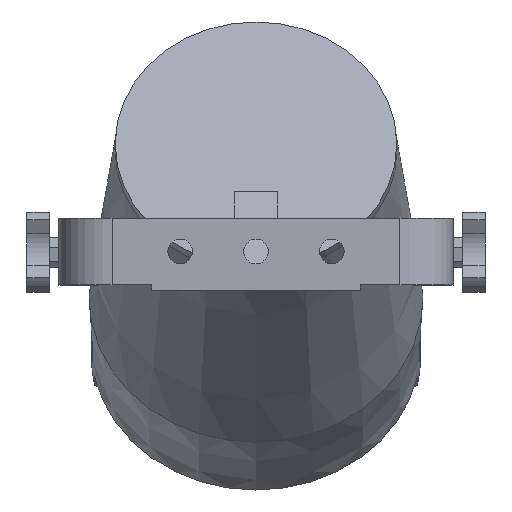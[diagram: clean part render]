
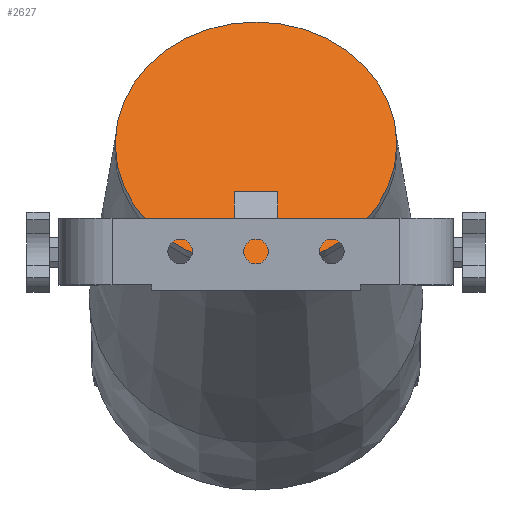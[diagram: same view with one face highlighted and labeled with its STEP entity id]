
A CAD part, top view. The second image highlights one B-rep face of the part: STEP entity #2627.
In plain terms, the highlighted planar face has unit normal (0, 0.497, 0.868) as drawn and (0, 0, 1) by its records, which use the part's own axes.
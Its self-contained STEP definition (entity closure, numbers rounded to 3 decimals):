
#79=FACE_BOUND('',#504,.T.);
#177=CIRCLE('',#2887,74.315);
#178=CIRCLE('',#2888,74.315);
#352=FACE_OUTER_BOUND('',#503,.T.);
#503=EDGE_LOOP('',(#2383,#2384));
#504=EDGE_LOOP('',(#2385,#2386,#2387,#2388));
#698=LINE('',#4169,#950);
#702=LINE('',#4177,#954);
#707=LINE('',#4187,#959);
#709=LINE('',#4190,#961);
#950=VECTOR('',#3430,10.);
#954=VECTOR('',#3436,10.);
#959=VECTOR('',#3445,10.);
#961=VECTOR('',#3449,10.);
#1191=VERTEX_POINT('',#4167);
#1192=VERTEX_POINT('',#4168);
#1195=VERTEX_POINT('',#4176);
#1198=VERTEX_POINT('',#4186);
#1264=VERTEX_POINT('',#4596);
#1265=VERTEX_POINT('',#4597);
#1533=EDGE_CURVE('',#1191,#1192,#698,.T.);
#1537=EDGE_CURVE('',#1195,#1191,#702,.T.);
#1542=EDGE_CURVE('',#1192,#1198,#707,.T.);
#1544=EDGE_CURVE('',#1198,#1195,#709,.T.);
#1641=EDGE_CURVE('',#1264,#1265,#177,.T.);
#1642=EDGE_CURVE('',#1265,#1264,#178,.T.);
#2383=ORIENTED_EDGE('',*,*,#1641,.T.);
#2384=ORIENTED_EDGE('',*,*,#1642,.T.);
#2385=ORIENTED_EDGE('',*,*,#1537,.T.);
#2386=ORIENTED_EDGE('',*,*,#1533,.T.);
#2387=ORIENTED_EDGE('',*,*,#1542,.T.);
#2388=ORIENTED_EDGE('',*,*,#1544,.T.);
#2493=PLANE('',#2886);
#2627=ADVANCED_FACE('',(#352,#79),#2493,.T.);
#2886=AXIS2_PLACEMENT_3D('',#4595,#3607,#3608);
#2887=AXIS2_PLACEMENT_3D('',#4598,#3609,#3610);
#2888=AXIS2_PLACEMENT_3D('',#4599,#3611,#3612);
#3430=DIRECTION('',(0.,1.,0.));
#3436=DIRECTION('',(-1.,0.,0.));
#3445=DIRECTION('',(1.,0.,0.));
#3449=DIRECTION('',(0.,-1.,0.));
#3607=DIRECTION('center_axis',(0.,0.,1.));
#3608=DIRECTION('ref_axis',(1.,0.,0.));
#3609=DIRECTION('center_axis',(0.,0.,1.));
#3610=DIRECTION('ref_axis',(1.,0.,0.));
#3611=DIRECTION('center_axis',(0.,0.,1.));
#3612=DIRECTION('ref_axis',(1.,0.,0.));
#4167=CARTESIAN_POINT('',(-11.5,-50.,151.5));
#4168=CARTESIAN_POINT('',(-11.5,-34.,151.5));
#4169=CARTESIAN_POINT('',(-11.5,-17.5,151.5));
#4176=CARTESIAN_POINT('',(11.5,-50.,151.5));
#4177=CARTESIAN_POINT('',(-5.25,-50.,151.5));
#4186=CARTESIAN_POINT('',(11.5,-34.,151.5));
#4187=CARTESIAN_POINT('',(5.25,-34.,151.5));
#4190=CARTESIAN_POINT('',(11.5,-24.5,151.5));
#4595=CARTESIAN_POINT('Origin',(0.,0.,151.5));
#4596=CARTESIAN_POINT('',(0.,-74.315,151.5));
#4597=CARTESIAN_POINT('',(0.,74.315,151.5));
#4598=CARTESIAN_POINT('Origin',(0.,0.,151.5));
#4599=CARTESIAN_POINT('Origin',(0.,0.,151.5));
